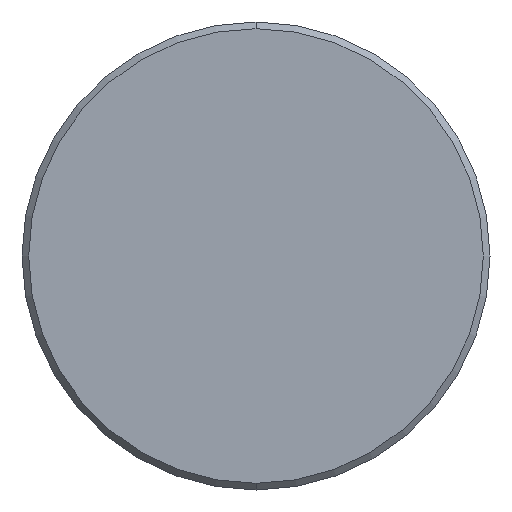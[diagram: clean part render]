
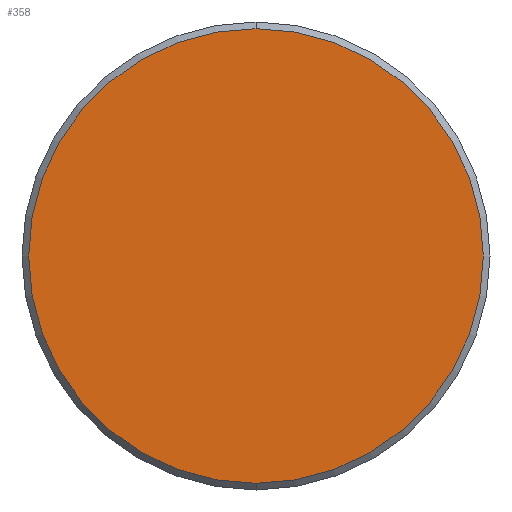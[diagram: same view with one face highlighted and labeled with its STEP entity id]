
A CAD part, front view. The second image highlights one B-rep face of the part: STEP entity #358.
In plain terms, the highlighted planar face has unit normal (0, -1, 0).
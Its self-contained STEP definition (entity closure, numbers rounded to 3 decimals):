
#1=CARTESIAN_POINT('',(0.,0.5,0.));
#2=DIRECTION('',(0.,1.,0.));
#3=DIRECTION('',(0.,0.,-1.));
#4=AXIS2_PLACEMENT_3D('',#1,#2,#3);
#6=CARTESIAN_POINT('',(0.,0.5,0.));
#7=DIRECTION('',(0.,1.,0.));
#8=DIRECTION('',(0.,0.,1.));
#9=AXIS2_PLACEMENT_3D('',#6,#7,#8);
#271=CARTESIAN_POINT('',(0.,0.5,-6.8));
#272=CARTESIAN_POINT('',(0.,0.5,6.8));
#273=VERTEX_POINT('',#271);
#274=VERTEX_POINT('',#272);
#347=CARTESIAN_POINT('',(0.,0.5,0.));
#348=DIRECTION('',(0.,1.,0.));
#349=DIRECTION('',(1.,0.,0.));
#350=AXIS2_PLACEMENT_3D('',#347,#348,#349);
#351=PLANE('',#350);
#353=ORIENTED_EDGE('',*,*,#352,.T.);
#355=ORIENTED_EDGE('',*,*,#354,.T.);
#356=EDGE_LOOP('',(#353,#355));
#357=FACE_OUTER_BOUND('',#356,.F.);
#358=ADVANCED_FACE('',(#357),#351,.F.);
#5=CIRCLE('',#4,6.8);
#10=CIRCLE('',#9,6.8);
#352=EDGE_CURVE('',#273,#274,#5,.T.);
#354=EDGE_CURVE('',#274,#273,#10,.T.);
